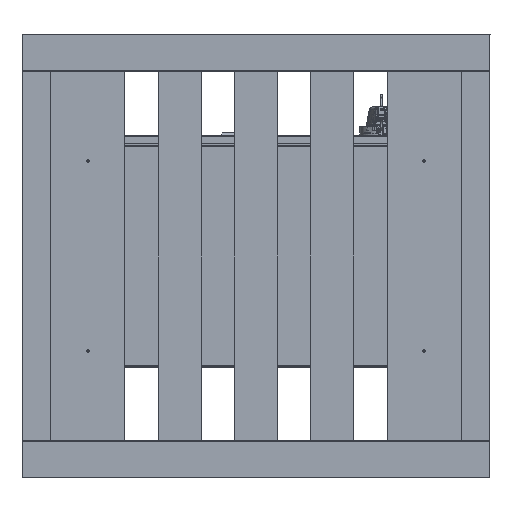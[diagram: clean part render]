
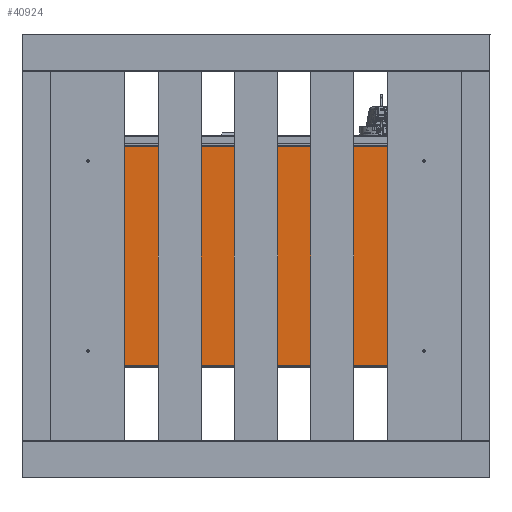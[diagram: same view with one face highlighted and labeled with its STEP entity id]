
A CAD part, front view. The second image highlights one B-rep face of the part: STEP entity #40924.
In plain terms, the highlighted planar face has unit normal (0, -1, 0).
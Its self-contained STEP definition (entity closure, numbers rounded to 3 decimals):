
#1939 = LINE ( 'NONE', #114318, #73670 ) ;
#11116 = EDGE_LOOP ( 'NONE', ( #43571, #40679, #35300, #101315 ) ) ;
#17158 = CARTESIAN_POINT ( 'NONE',  ( 14.806, -34.999, -8.806 ) ) ;
#17381 = FACE_BOUND ( 'NONE', #53996, .T. ) ;
#22377 = EDGE_LOOP ( 'NONE', ( #39547 ) ) ;
#33727 = DIRECTION ( 'NONE',  ( 0., 1., 0. ) ) ;
#35300 = ORIENTED_EDGE ( 'NONE', *, *, #129038, .T. ) ;
#39547 = ORIENTED_EDGE ( 'NONE', *, *, #173795, .T. ) ;
#40455 = LINE ( 'NONE', #131019, #154785 ) ;
#40679 = ORIENTED_EDGE ( 'NONE', *, *, #178504, .T. ) ;
#40924 = ADVANCED_FACE ( 'NONE', ( #169773, #98135, #55500, #17381, #165341, #127266 ), #118611, .F. ) ;
#43571 = ORIENTED_EDGE ( 'NONE', *, *, #161291, .T. ) ;
#43721 = EDGE_CURVE ( 'NONE', #130319, #130319, #46029, .T. ) ;
#43762 = DIRECTION ( 'NONE',  ( 0., 1., 0. ) ) ;
#43953 = DIRECTION ( 'NONE',  ( 0., 0., 1. ) ) ;
#46029 = CIRCLE ( 'NONE', #111402, 0.25 ) ;
#49024 = DIRECTION ( 'NONE',  ( 0., 1., 0. ) ) ;
#50485 = CARTESIAN_POINT ( 'NONE',  ( -13.658, -34.999, -7.658 ) ) ;
#52247 = ORIENTED_EDGE ( 'NONE', *, *, #79636, .T. ) ;
#53996 = EDGE_LOOP ( 'NONE', ( #151140 ) ) ;
#55500 = FACE_BOUND ( 'NONE', #128285, .T. ) ;
#56080 = VERTEX_POINT ( 'NONE', #136127 ) ;
#57201 = VERTEX_POINT ( 'NONE', #142339 ) ;
#57413 = CARTESIAN_POINT ( 'NONE',  ( -13.408, -34.999, -7.658 ) ) ;
#59992 = EDGE_LOOP ( 'NONE', ( #109517 ) ) ;
#64901 = DIRECTION ( 'NONE',  ( 1., 0., 0. ) ) ;
#67075 = CARTESIAN_POINT ( 'NONE',  ( -14.806, -34.999, -8.806 ) ) ;
#67084 = VERTEX_POINT ( 'NONE', #57413 ) ;
#73670 = VECTOR ( 'NONE', #128768, 39.37 ) ;
#76003 = AXIS2_PLACEMENT_3D ( 'NONE', #119626, #33727, #134072 ) ;
#76849 = DIRECTION ( 'NONE',  ( 0., 1., 0. ) ) ;
#79636 = EDGE_CURVE ( 'NONE', #56080, #56080, #108112, .T. ) ;
#82102 = DIRECTION ( 'NONE',  ( 0., 1., 0. ) ) ;
#86913 = CIRCLE ( 'NONE', #93293, 0.25 ) ;
#91767 = AXIS2_PLACEMENT_3D ( 'NONE', #167890, #82102, #182334 ) ;
#93293 = AXIS2_PLACEMENT_3D ( 'NONE', #50485, #150758, #64901 ) ;
#93809 = VECTOR ( 'NONE', #171222, 39.37 ) ;
#95501 = CARTESIAN_POINT ( 'NONE',  ( -13.408, -34.999, 7.75 ) ) ;
#98135 = FACE_BOUND ( 'NONE', #59992, .T. ) ;
#98344 = CIRCLE ( 'NONE', #91767, 0.25 ) ;
#101315 = ORIENTED_EDGE ( 'NONE', *, *, #106792, .T. ) ;
#101913 = VERTEX_POINT ( 'NONE', #17158 ) ;
#106792 = EDGE_CURVE ( 'NONE', #101913, #57201, #40455, .T. ) ;
#108112 = CIRCLE ( 'NONE', #76003, 0.126 ) ;
#109517 = ORIENTED_EDGE ( 'NONE', *, *, #43721, .T. ) ;
#109755 = EDGE_CURVE ( 'NONE', #67084, #67084, #86913, .T. ) ;
#111402 = AXIS2_PLACEMENT_3D ( 'NONE', #162693, #76849, #177067 ) ;
#111496 = VERTEX_POINT ( 'NONE', #95501 ) ;
#114318 = CARTESIAN_POINT ( 'NONE',  ( -14.806, -34.999, 4.446 ) ) ;
#118250 = AXIS2_PLACEMENT_3D ( 'NONE', #129609, #43762, #144007 ) ;
#118611 = PLANE ( 'NONE',  #137547 ) ;
#119626 = CARTESIAN_POINT ( 'NONE',  ( -11., -34.999, 7. ) ) ;
#122733 = EDGE_CURVE ( 'NONE', #140998, #140998, #153696, .T. ) ;
#127266 = FACE_BOUND ( 'NONE', #129898, .T. ) ;
#128082 = CARTESIAN_POINT ( 'NONE',  ( 14.908, -34.999, 8.898 ) ) ;
#128285 = EDGE_LOOP ( 'NONE', ( #144306 ) ) ;
#128768 = DIRECTION ( 'NONE',  ( 0., 0., -1. ) ) ;
#129038 = EDGE_CURVE ( 'NONE', #158015, #101913, #169391, .T. ) ;
#129609 = CARTESIAN_POINT ( 'NONE',  ( 13.658, -34.999, -7.658 ) ) ;
#129898 = EDGE_LOOP ( 'NONE', ( #52247 ) ) ;
#130319 = VERTEX_POINT ( 'NONE', #173001 ) ;
#131019 = CARTESIAN_POINT ( 'NONE',  ( 14.806, -34.999, -4.406 ) ) ;
#131360 = VECTOR ( 'NONE', #174937, 39.37 ) ;
#131789 = CARTESIAN_POINT ( 'NONE',  ( -7.403, -34.999, -8.806 ) ) ;
#131904 = LINE ( 'NONE', #128082, #93809 ) ;
#134072 = DIRECTION ( 'NONE',  ( 1., 0., 0. ) ) ;
#134879 = CARTESIAN_POINT ( 'NONE',  ( -13.717, -34.999, 8.88 ) ) ;
#136127 = CARTESIAN_POINT ( 'NONE',  ( -10.874, -34.999, 7. ) ) ;
#137547 = AXIS2_PLACEMENT_3D ( 'NONE', #134879, #49024, #149275 ) ;
#139748 = CARTESIAN_POINT ( 'NONE',  ( -14.806, -34.999, 8.898 ) ) ;
#140998 = VERTEX_POINT ( 'NONE', #173862 ) ;
#142339 = CARTESIAN_POINT ( 'NONE',  ( 14.806, -34.999, 8.898 ) ) ;
#144007 = DIRECTION ( 'NONE',  ( 1., 0., 0. ) ) ;
#144306 = ORIENTED_EDGE ( 'NONE', *, *, #109755, .T. ) ;
#149275 = DIRECTION ( 'NONE',  ( 1., 0., 0. ) ) ;
#150758 = DIRECTION ( 'NONE',  ( 0., 1., 0. ) ) ;
#151140 = ORIENTED_EDGE ( 'NONE', *, *, #122733, .T. ) ;
#153696 = CIRCLE ( 'NONE', #118250, 0.25 ) ;
#154785 = VECTOR ( 'NONE', #43953, 39.37 ) ;
#156386 = VERTEX_POINT ( 'NONE', #139748 ) ;
#158015 = VERTEX_POINT ( 'NONE', #67075 ) ;
#161291 = EDGE_CURVE ( 'NONE', #57201, #156386, #131904, .T. ) ;
#162693 = CARTESIAN_POINT ( 'NONE',  ( 13.658, -34.999, 7.75 ) ) ;
#165341 = FACE_BOUND ( 'NONE', #22377, .T. ) ;
#167890 = CARTESIAN_POINT ( 'NONE',  ( -13.658, -34.999, 7.75 ) ) ;
#169391 = LINE ( 'NONE', #131789, #131360 ) ;
#169773 = FACE_OUTER_BOUND ( 'NONE', #11116, .T. ) ;
#171222 = DIRECTION ( 'NONE',  ( -1., 0., 0. ) ) ;
#173001 = CARTESIAN_POINT ( 'NONE',  ( 13.908, -34.999, 7.75 ) ) ;
#173795 = EDGE_CURVE ( 'NONE', #111496, #111496, #98344, .T. ) ;
#173862 = CARTESIAN_POINT ( 'NONE',  ( 13.908, -34.999, -7.658 ) ) ;
#174937 = DIRECTION ( 'NONE',  ( 1., 0., 0. ) ) ;
#177067 = DIRECTION ( 'NONE',  ( 1., 0., 0. ) ) ;
#178504 = EDGE_CURVE ( 'NONE', #156386, #158015, #1939, .T. ) ;
#182334 = DIRECTION ( 'NONE',  ( 1., 0., 0. ) ) ;
